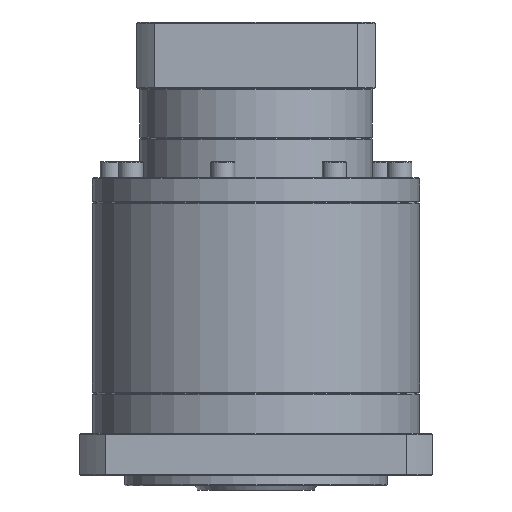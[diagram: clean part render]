
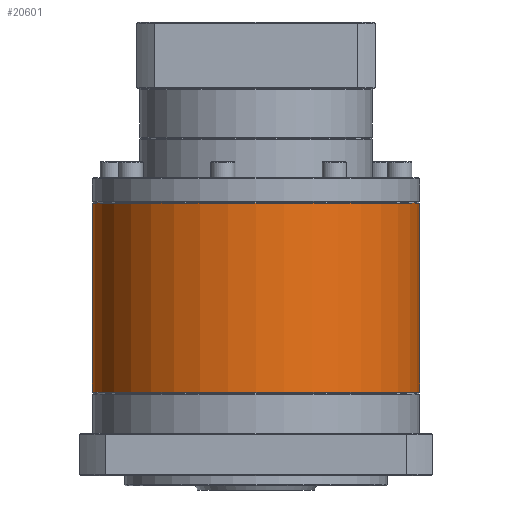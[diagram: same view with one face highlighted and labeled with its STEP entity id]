
A CAD part, front view. The second image highlights one B-rep face of the part: STEP entity #20601.
In plain terms, the highlighted cylindrical face has radius 81 mm (diameter 162 mm), a partial arc.
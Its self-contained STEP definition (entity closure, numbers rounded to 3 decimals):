
#1811 = CARTESIAN_POINT ( 'NONE',  ( -41.541, 136.749, -51.67 ) ) ;
#8220 = CIRCLE ( 'NONE', #74462, 81. ) ;
#9363 = DIRECTION ( 'NONE',  ( 0., 0., -1. ) ) ;
#13036 = CARTESIAN_POINT ( 'NONE',  ( 120.459, 136.749, -52.17 ) ) ;
#20601 = ADVANCED_FACE ( 'NONE', ( #95190 ), #32378, .T. ) ;
#21288 = DIRECTION ( 'NONE',  ( 0., 0., -1. ) ) ;
#23252 = DIRECTION ( 'NONE',  ( -1., 0., 0. ) ) ;
#24785 = AXIS2_PLACEMENT_3D ( 'NONE', #92858, #53968, #92532 ) ;
#29320 = EDGE_CURVE ( 'NONE', #32454, #90865, #8220, .T. ) ;
#30682 = DIRECTION ( 'NONE',  ( 0., 0., -1. ) ) ;
#32378 = CYLINDRICAL_SURFACE ( 'NONE', #24785, 81. ) ;
#32454 = VERTEX_POINT ( 'NONE', #13036 ) ;
#37759 = CARTESIAN_POINT ( 'NONE',  ( -41.541, 136.749, -145.67 ) ) ;
#38044 = CARTESIAN_POINT ( 'NONE',  ( 120.459, 136.749, -145.67 ) ) ;
#45922 = LINE ( 'NONE', #1811, #95502 ) ;
#45963 = CARTESIAN_POINT ( 'NONE',  ( 120.459, 136.749, -51.67 ) ) ;
#46490 = CARTESIAN_POINT ( 'NONE',  ( 39.459, 136.749, -52.17 ) ) ;
#47199 = CARTESIAN_POINT ( 'NONE',  ( 39.459, 136.749, -145.67 ) ) ;
#50879 = ORIENTED_EDGE ( 'NONE', *, *, #67795, .T. ) ;
#53316 = LINE ( 'NONE', #45963, #78750 ) ;
#53968 = DIRECTION ( 'NONE',  ( 0., 0., -1. ) ) ;
#55300 = DIRECTION ( 'NONE',  ( 0., 0., 1. ) ) ;
#59047 = EDGE_CURVE ( 'NONE', #32454, #68061, #53316, .T. ) ;
#61419 = DIRECTION ( 'NONE',  ( -1., 0., 0. ) ) ;
#64362 = ORIENTED_EDGE ( 'NONE', *, *, #59047, .F. ) ;
#64524 = CIRCLE ( 'NONE', #67530, 81. ) ;
#67530 = AXIS2_PLACEMENT_3D ( 'NONE', #47199, #55300, #23252 ) ;
#67795 = EDGE_CURVE ( 'NONE', #84346, #68061, #64524, .T. ) ;
#68061 = VERTEX_POINT ( 'NONE', #38044 ) ;
#74462 = AXIS2_PLACEMENT_3D ( 'NONE', #46490, #30682, #61419 ) ;
#74939 = ORIENTED_EDGE ( 'NONE', *, *, #79058, .T. ) ;
#78750 = VECTOR ( 'NONE', #21288, 1000. ) ;
#79058 = EDGE_CURVE ( 'NONE', #90865, #84346, #45922, .T. ) ;
#84346 = VERTEX_POINT ( 'NONE', #37759 ) ;
#87667 = EDGE_LOOP ( 'NONE', ( #64362, #95694, #74939, #50879 ) ) ;
#88568 = CARTESIAN_POINT ( 'NONE',  ( -41.541, 136.749, -52.17 ) ) ;
#90865 = VERTEX_POINT ( 'NONE', #88568 ) ;
#92532 = DIRECTION ( 'NONE',  ( -1., 0., 0. ) ) ;
#92858 = CARTESIAN_POINT ( 'NONE',  ( 39.459, 136.749, -51.67 ) ) ;
#95190 = FACE_OUTER_BOUND ( 'NONE', #87667, .T. ) ;
#95502 = VECTOR ( 'NONE', #9363, 1000. ) ;
#95694 = ORIENTED_EDGE ( 'NONE', *, *, #29320, .T. ) ;
